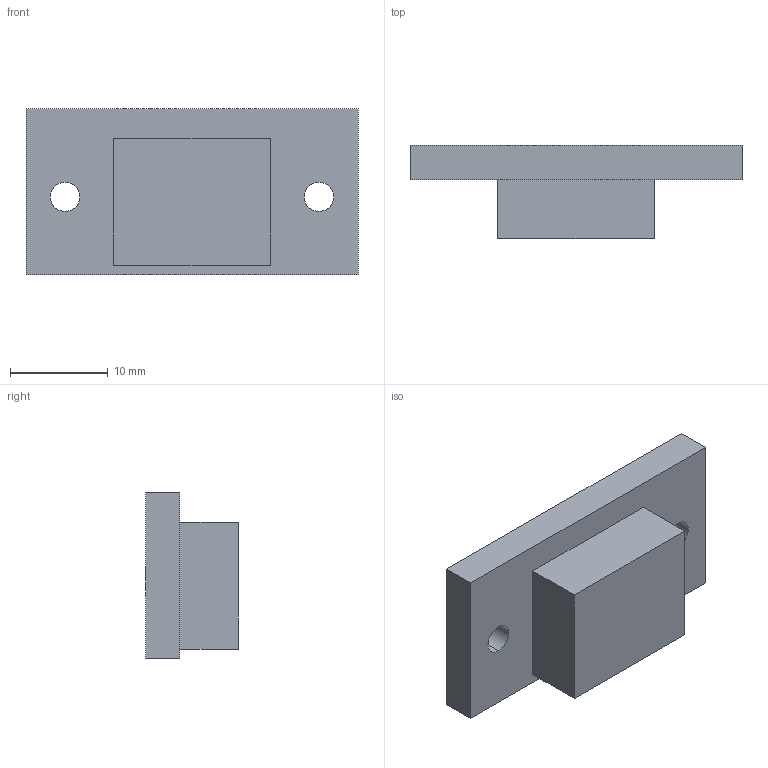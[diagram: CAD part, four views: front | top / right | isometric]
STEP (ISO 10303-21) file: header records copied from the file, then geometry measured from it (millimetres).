
FILE_DESCRIPTION(('Open CASCADE Model'),'2;1');
FILE_NAME('wrist-bridge.step','2026-11-14T14:32:01',('Author'),( 'Open CASCADE'),'Open CASCADE STEP processor 8.0','Open CASCADE 8.0' ,'Unknown');
FILE_SCHEMA(('AP242_MANAGED_MODEL_BASED_3D_ENGINEERING_MIM_LF {1 0 10303 442 1 1 4 }' ));
Length unit declared in the file: millimetre
Products named in the file (1): Wrist Bridge
Bounding box: 34 x 9.5 x 17 mm (x, y, z)
Volume: 3221.5 mm3; surface area: 1898.7 mm2
Topology: 1 solids, 1 shells, 15 faces, 36 edges, 24 vertices
Faces by surface type: plane 11, cylinder 4
Entity records: 936 total; most frequent: CARTESIAN_POINT 172, DIRECTION 144, LINE 92, VECTOR 92, ORIENTED_EDGE 72, PCURVE 72, DEFINITIONAL_REPRESENTATION 72, EDGE_CURVE 36
